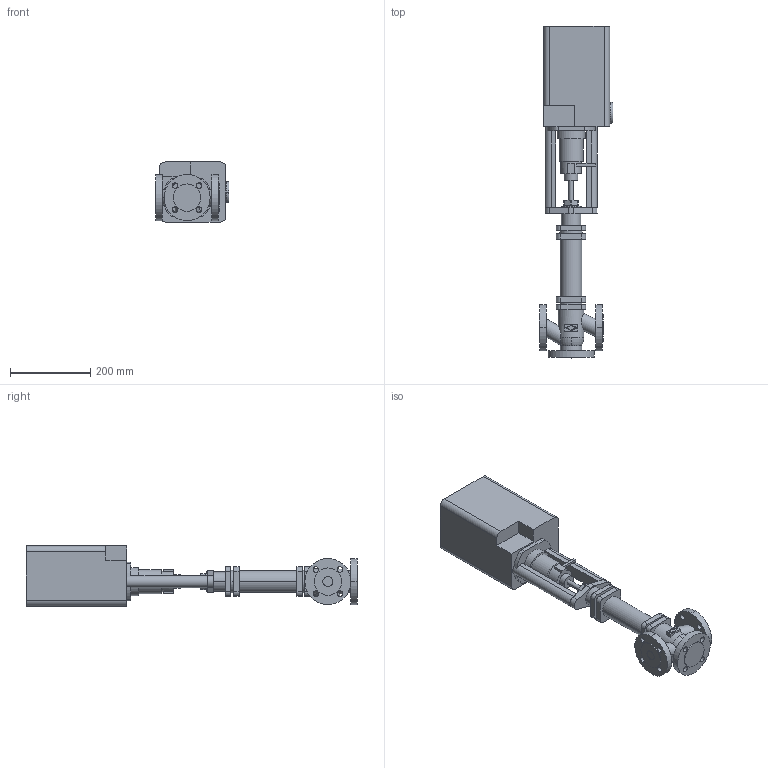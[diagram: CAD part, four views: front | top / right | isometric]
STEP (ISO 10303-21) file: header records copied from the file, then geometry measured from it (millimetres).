
FILE_DESCRIPTION(('OneSpaceDesigner STEP Export'),'2;1');
FILE_NAME('c000002434.stp','2006-09-21T11:42:38',(''),(''),'OneSpace Designer STEP processor for AP214 (Solid Model)','OneSpace Designer 13.20A 18-Aug-2005 (C) CoCreate Software GmbH','');
FILE_SCHEMA(('AUTOMOTIVE_DESIGN { 1 0 10303 214 1 1 1 1 }'));
Length unit declared in the file: millimetre
Products named in the file (2): 1; 2
Bounding box: 184.6 x 828 x 150 mm (x, y, z)
Volume: 8466050.1 mm3; surface area: 466272.9 mm2
Topology: 2 solids, 2 shells, 229 faces, 583 edges, 388 vertices
Faces by surface type: cylinder 116, plane 109, torus 4
Entity records: 6813 total; most frequent: CARTESIAN_POINT 1445, ORIENTED_EDGE 1166, DIRECTION 1029, EDGE_CURVE 583, VERTEX_POINT 388, AXIS2_PLACEMENT_3D 357, VECTOR 315, LINE 315
